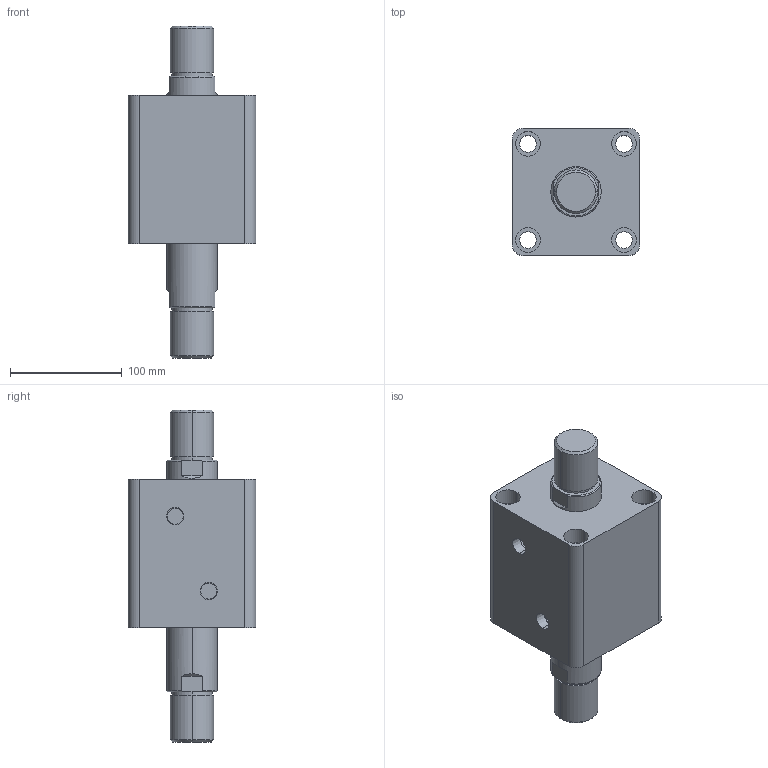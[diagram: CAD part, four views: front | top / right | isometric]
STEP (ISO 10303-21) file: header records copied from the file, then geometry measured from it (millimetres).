
FILE_DESCRIPTION (( 'STEP AP203' ), '1' );
FILE_NAME ('HTB-SW80-40W.STEP', '2019-10-07T10:22:25', ( '微软用户' ), ( '微软中国' ), 'SwSTEP 2.0', 'SolidWorks 2012', '' );
FILE_SCHEMA (( 'CONFIG_CONTROL_DESIGN' ));
Length unit declared in the file: millimetre
Products named in the file (3): HTB-SW80-40W; HTB-SW80-40W活塞杆; HTB-SW80-40掛极
Assembly tree (2 placements, depth 2):
  HTB-SW80-40W
    HTB-SW80-40掛极
    HTB-SW80-40W活塞杆
Bounding box: 114 x 114 x 297 mm (x, y, z)
Volume: 1679179.7 mm3; surface area: 195826.9 mm2
Topology: 2 solids, 2 shells, 108 faces, 240 edges, 156 vertices
Faces by surface type: cylinder 52, plane 36, torus 12, cone 8
Entity records: 3449 total; most frequent: CARTESIAN_POINT 629, DIRECTION 586, ORIENTED_EDGE 480, AXIS2_PLACEMENT_3D 249, EDGE_CURVE 240, VERTEX_POINT 156, EDGE_LOOP 138, CIRCLE 136
